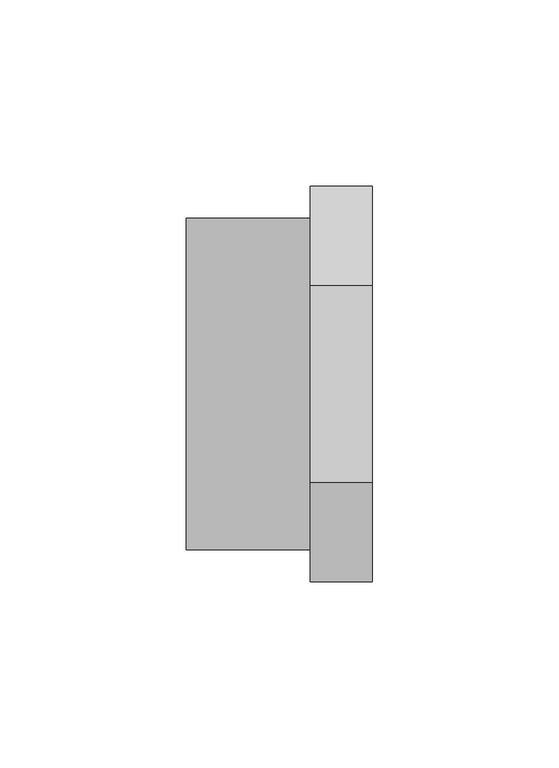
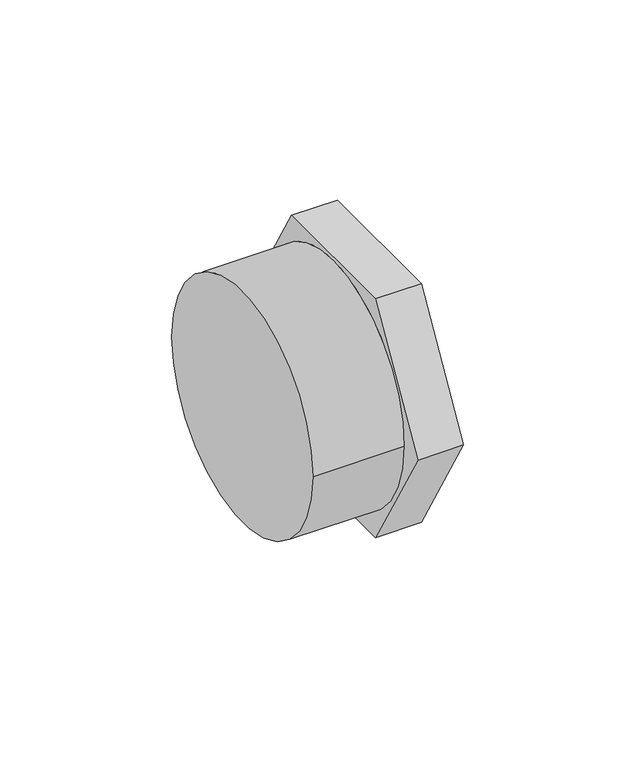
"""IFC4 building model written with IfcOpenShell, lengths in millimetres: pipe fitting geometry, 01011011 : Tapones M."""

from ifc_helpers import new_model, si_unit, point, frame, origin, origin_2d, place, context, project, spatial, circle_curve, trimmed, segment, composite_curve, outline, extrude, source, transform, mapped, element, save
from ifc_brep_helpers import plane_surface, cylinder_surface, advanced_brep


def pipe_fitting_6009d64b(model_context):
    return source(origin(), model_context, "Body", "SolidModel", [
        extrude(outline(composite_curve([segment(trimmed(circle_curve(origin_2d(), 44.525), [point((-44.525, 0.0))], [point((44.525, 0.0))], False, "CARTESIAN"), True, "CONTINUOUS"), segment(trimmed(circle_curve(origin_2d(), 44.525), [point((44.525, 0.0))], [point((-44.525, 0.0))], False, "CARTESIAN"), True, "CONTINUOUS")], self_intersect=False)), frame((0.0, 0.0, 0.0), z_axis=(1.0, 0.0, 0.0), x_axis=(0.0, 1.0, 0.0)), (0.0, 0.0, 1.0), 33.3333333),
        advanced_brep(
        [(50.0, -26.5581124, 46.0), (50.0, -53.1162248, 0.0), (50.0, -26.5581124, -46.0), (50.0, 26.5581124, -46.0), (50.0, 53.1162248, 0.0), (50.0, 26.5581124, 46.0), (33.3333333, -26.5581124, 46.0), (33.3333333, 26.5581124, 46.0), (33.3333333, 53.1162248, 0.0), (33.3333333, 26.5581124, -46.0), (33.3333333, -26.5581124, -46.0), (33.3333333, -53.1162248, 0.0), (33.3333333, 44.525, 0.0), (33.3333333, -44.525, 0.0), (0.0, -44.525, 0.0), (0.0, 44.525, 0.0)],
        [
            (0, 1),
            (1, 2),
            (2, 3),
            (3, 4),
            (4, 5),
            (5, 0),
            (6, 7),
            (7, 8),
            (8, 9),
            (9, 10),
            (10, 11),
            (11, 6),
            (12, 13, circle_curve(frame((33.3333333, 0.0, 0.0), z_axis=(1.0, 0.0, 0.0), x_axis=(0.0, 1.0, 0.0)), 44.525)),
            (13, 12, circle_curve(frame((33.3333333, 0.0, 0.0), z_axis=(1.0, 0.0, 0.0), x_axis=(0.0, 1.0, 0.0)), 44.525)),
            (0, 6),
            (11, 1),
            (10, 2),
            (9, 3),
            (8, 4),
            (7, 5),
            (14, 15, circle_curve(frame((0.0, 0.0, 0.0), z_axis=(-1.0, 0.0, 0.0), x_axis=(0.0, 1.0, 0.0)), 44.525)),
            (15, 14, circle_curve(frame((0.0, 0.0, 0.0), z_axis=(-1.0, 0.0, 0.0), x_axis=(0.0, 1.0, 0.0)), 44.525)),
            (14, 13),
            (12, 15),
        ],
        [
            plane_surface(frame((50.0, -26.5581124, 46.0), z_axis=(1.0000000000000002, 0.0, 0.0), x_axis=(0.0, -0.5000000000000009, -0.8660254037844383))),
            plane_surface(frame((33.3333333, -26.5581124, 46.0), z_axis=(-1.0000000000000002, 0.0, 0.0), x_axis=(0.0, 0.5000000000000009, 0.8660254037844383))),
            plane_surface(frame((50.0, -26.5581124, 46.0), z_axis=(0.0, -0.8660254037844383, 0.5000000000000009), x_axis=(-1.0, 0.0, 0.0))),
            plane_surface(frame((50.0, -53.1162248, 0.0), z_axis=(0.0, -0.8660254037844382, -0.500000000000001), x_axis=(-1.0, 0.0, 0.0))),
            plane_surface(frame((50.0, -26.5581124, -46.0), z_axis=(0.0, 0.0, -1.0), x_axis=(-1.0, 0.0, 0.0))),
            plane_surface(frame((50.0, 26.5581124, -46.0), z_axis=(0.0, 0.8660254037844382, -0.5000000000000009), x_axis=(-1.0, 0.0, 0.0))),
            plane_surface(frame((50.0, 53.1162248, 0.0), z_axis=(0.0, 0.8660254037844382, 0.500000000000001), x_axis=(-1.0, 0.0, 0.0))),
            plane_surface(frame((50.0, 26.5581124, 46.0), z_axis=(0.0, 0.0, 1.0), x_axis=(-1.0, 0.0, 0.0))),
            plane_surface(frame((0.0, 0.0, 0.0), z_axis=(-1.0, 0.0, 0.0), x_axis=(0.0, 0.0, 1.0))),
            cylinder_surface(frame((0.0, 0.0, 0.0), z_axis=(-1.0, 0.0, 0.0), x_axis=(0.0, 1.0, 0.0)), 44.525),
        ],
        [
            (0, [[1, 2, 3, 4, 5, 6]]),
            (1, [[7, 8, 9, 10, 11, 12], [13, 14]]),
            (2, [[-1, 15, -12, 16]]),
            (3, [[-2, -16, -11, 17]]),
            (4, [[-3, -17, -10, 18]]),
            (5, [[-4, -18, -9, 19]]),
            (6, [[-5, -19, -8, 20]]),
            (7, [[-6, -20, -7, -15]]),
            (8, [[21, 22]]),
            (9, [[-21, 23, -13, 24]]),
            (9, [[-22, -24, -14, -23]]),
        ],
    ),
    ])


if __name__ == "__main__":
    model = new_model("IFC4")
    model_context = context("Model", 3, world=origin())
    ifc_project = project(units=[si_unit("LENGTHUNIT", "METRE", prefix="MILLI")], contexts=[model_context])
    site = spatial("IfcSite", under=ifc_project)
    building = spatial("IfcBuilding", under=site)
    placement = place(None, origin())
    pipe_fitting_shape = pipe_fitting_6009d64b(model_context)
    element("IfcPipeFitting", 1, ObjectType="01011011 : Tapones M", at=placement, inside=building, context=model_context, shape_type="MappedRepresentation", body=[
        mapped(pipe_fitting_shape, transform((0.0, 0.0, 0.0), x_axis=(1.0, 0.0, 0.0), y_axis=(0.0, 1.0, 0.0), z_axis=(0.0, 0.0, 1.0))),
    ])
    save(model, "model.ifc")
